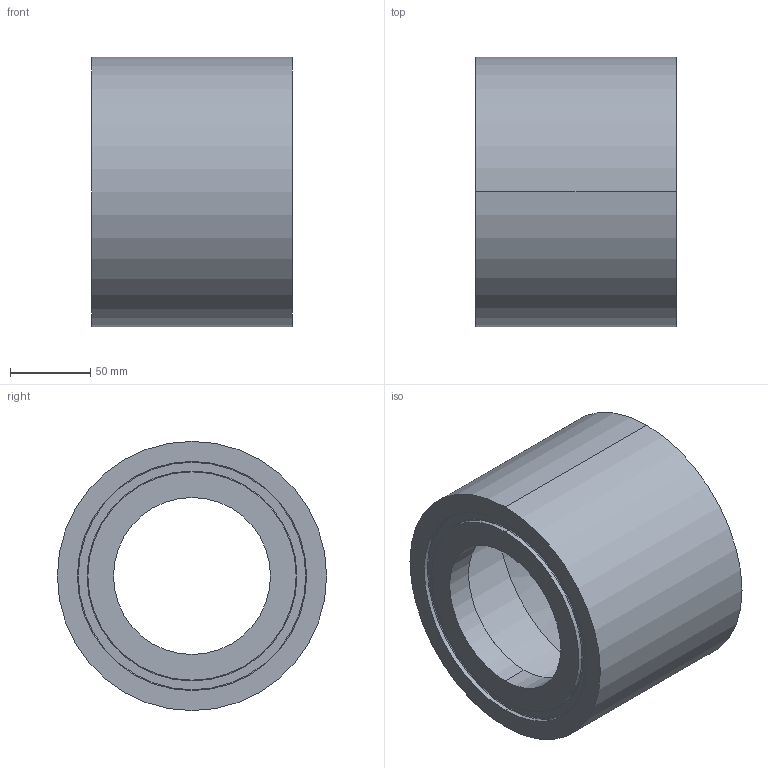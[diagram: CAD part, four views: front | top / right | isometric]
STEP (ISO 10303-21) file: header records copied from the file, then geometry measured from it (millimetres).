
FILE_DESCRIPTION (( 'STEP AP214' ), '1' );
FILE_NAME ('RVZ3139xD19A5A05500_DN100_DIN-RR-Nut_PS40.STEP', '2009-11-10T13:35:53', ( 'Eckhard Grams' ), ( 'AWP Kälte Klima Armaturen GmbH' ), 'SwSTEP 2.0', 'SolidWorks 2002296', '' );
FILE_SCHEMA (( 'AUTOMOTIVE_DESIGN' ));
Length unit declared in the file: millimetre
Products named in the file (2): RVZ3139xD19A5A05500_DN100_DIN-RR-Nut_PS40; Geh 31391K19-5034xx4_DN100_PS63_Geh 31391K19-5034554_RR-Nut
Assembly tree (1 placements, depth 2):
  RVZ3139xD19A5A05500_DN100_DIN-RR-Nut_PS40
    Geh 31391K19-5034xx4_DN100_PS63_Geh 31391K19-5034554_RR-Nut
Bounding box: 125 x 168 x 168 mm (x, y, z)
Volume: 987849.4 mm3; surface area: 164152.9 mm2
Topology: 1 solids, 1 shells, 51 faces, 102 edges, 62 vertices
Faces by surface type: cylinder 26, torus 12, plane 11, cone 2
Entity records: 1427 total; most frequent: DIRECTION 286, CARTESIAN_POINT 219, ORIENTED_EDGE 204, AXIS2_PLACEMENT_3D 129, EDGE_CURVE 102, CIRCLE 74, VERTEX_POINT 62, EDGE_LOOP 62
